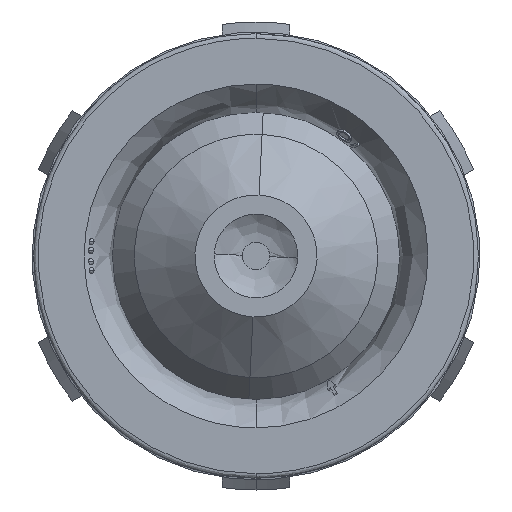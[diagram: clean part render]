
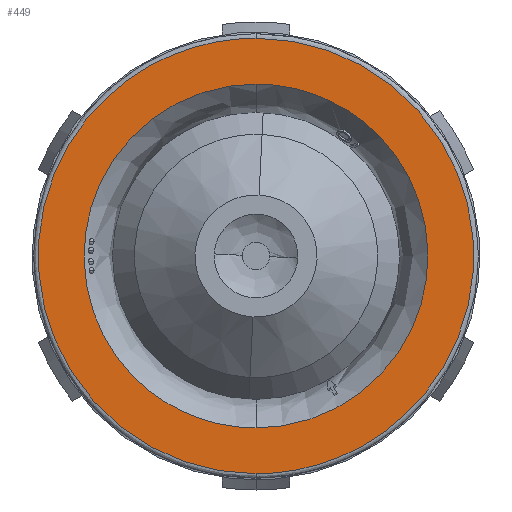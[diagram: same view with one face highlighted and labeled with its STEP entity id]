
A CAD part, left-side view. The second image highlights one B-rep face of the part: STEP entity #449.
In plain terms, the highlighted planar face has unit normal (-1, 0, 0).
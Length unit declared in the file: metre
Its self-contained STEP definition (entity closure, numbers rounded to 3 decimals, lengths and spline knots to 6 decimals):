
#309 = CARTESIAN_POINT ( 'NONE',  ( 0., 0., -0.0076 ) ) ;
#447 = CARTESIAN_POINT ( 'NONE',  ( 0., -0.01925, -0.009625 ) ) ;
#449 = ADVANCED_FACE ( 'NONE', ( #16464, #6978 ), #4927, .F. ) ;
#1492 =( BOUNDED_CURVE ( )  B_SPLINE_CURVE ( 3, ( #1659, #19419, #3433, #21237 ),
 .UNSPECIFIED., .F., .F. ) 
 B_SPLINE_CURVE_WITH_KNOTS ( ( 4, 4 ),
 ( 0., 0.023756 ),
 .UNSPECIFIED. ) 
 CURVE ( )  GEOMETRIC_REPRESENTATION_ITEM ( )  RATIONAL_B_SPLINE_CURVE ( ( 0.974, 0.325, 0.325, 0.974 ) ) 
 REPRESENTATION_ITEM ( '' )  );
#1659 = CARTESIAN_POINT ( 'NONE',  ( 0., 0., 0.0076 ) ) ;
#3218 = ORIENTED_EDGE ( 'NONE', *, *, #20339, .F. ) ;
#3433 = CARTESIAN_POINT ( 'NONE',  ( 0., 0.0152, -0.0076 ) ) ;
#4883 = VERTEX_POINT ( 'NONE', #13441 ) ;
#4927 = PLANE ( 'NONE',  #12959 ) ;
#6541 = CARTESIAN_POINT ( 'NONE',  ( 0., 0., -0.009625 ) ) ;
#6978 = FACE_OUTER_BOUND ( 'NONE', #22426, .T. ) ;
#7121 = DIRECTION ( 'NONE',  ( 0., 0., -1. ) ) ;
#7653 = ORIENTED_EDGE ( 'NONE', *, *, #8972, .F. ) ;
#8119 = VERTEX_POINT ( 'NONE', #9719 ) ;
#8292 = VERTEX_POINT ( 'NONE', #17286 ) ;
#8363 = CARTESIAN_POINT ( 'NONE',  ( 0., 0., 0.009625 ) ) ;
#8972 = EDGE_CURVE ( 'NONE', #8119, #9002, #16549, .T. ) ;
#9002 = VERTEX_POINT ( 'NONE', #13162 ) ;
#9028 = EDGE_CURVE ( 'NONE', #4883, #8292, #15974, .T. ) ;
#9719 = CARTESIAN_POINT ( 'NONE',  ( 0., 0., -0.0076 ) ) ;
#9767 = CARTESIAN_POINT ( 'NONE',  ( 0., -0.0152, 0.0076 ) ) ;
#10257 = CARTESIAN_POINT ( 'NONE',  ( 0., 0., 0.009625 ) ) ;
#10956 =( BOUNDED_CURVE ( )  B_SPLINE_CURVE ( 3, ( #10257, #12044, #447, #21892 ),
 .UNSPECIFIED., .F., .F. ) 
 B_SPLINE_CURVE_WITH_KNOTS ( ( 4, 4 ),
 ( 0., 1. ),
 .UNSPECIFIED. ) 
 CURVE ( )  GEOMETRIC_REPRESENTATION_ITEM ( )  RATIONAL_B_SPLINE_CURVE ( ( 0.957, 0.319, 0.319, 0.957 ) ) 
 REPRESENTATION_ITEM ( '' )  );
#12044 = CARTESIAN_POINT ( 'NONE',  ( 0., -0.01925, 0.009625 ) ) ;
#12856 = CARTESIAN_POINT ( 'NONE',  ( 0., -0.0152, -0.0076 ) ) ;
#12959 = AXIS2_PLACEMENT_3D ( 'NONE', #15455, #17271, #7121 ) ;
#13162 = CARTESIAN_POINT ( 'NONE',  ( 0., 0., 0.0076 ) ) ;
#13441 = CARTESIAN_POINT ( 'NONE',  ( 0., 0., -0.009625 ) ) ;
#13695 = CARTESIAN_POINT ( 'NONE',  ( 0., 0.01925, -0.009625 ) ) ;
#15122 = CARTESIAN_POINT ( 'NONE',  ( 0., 0., 0.0076 ) ) ;
#15438 = CARTESIAN_POINT ( 'NONE',  ( 0., 0.01925, 0.009625 ) ) ;
#15455 = CARTESIAN_POINT ( 'NONE',  ( 0., -0.00974, 0.00974 ) ) ;
#15974 =( BOUNDED_CURVE ( )  B_SPLINE_CURVE ( 3, ( #6541, #13695, #15438, #8363 ),
 .UNSPECIFIED., .F., .F. ) 
 B_SPLINE_CURVE_WITH_KNOTS ( ( 4, 4 ),
 ( 0., 1. ),
 .UNSPECIFIED. ) 
 CURVE ( )  GEOMETRIC_REPRESENTATION_ITEM ( )  RATIONAL_B_SPLINE_CURVE ( ( 0.957, 0.319, 0.319, 0.957 ) ) 
 REPRESENTATION_ITEM ( '' )  );
#16464 = FACE_BOUND ( 'NONE', #21441, .T. ) ;
#16549 =( BOUNDED_CURVE ( )  B_SPLINE_CURVE ( 3, ( #309, #12856, #9767, #15122 ),
 .UNSPECIFIED., .F., .F. ) 
 B_SPLINE_CURVE_WITH_KNOTS ( ( 4, 4 ),
 ( 0., 0.023756 ),
 .UNSPECIFIED. ) 
 CURVE ( )  GEOMETRIC_REPRESENTATION_ITEM ( )  RATIONAL_B_SPLINE_CURVE ( ( 0.974, 0.325, 0.325, 0.974 ) ) 
 REPRESENTATION_ITEM ( '' )  );
#17271 = DIRECTION ( 'NONE',  ( 1., 0., 0. ) ) ;
#17286 = CARTESIAN_POINT ( 'NONE',  ( 0., 0., 0.009625 ) ) ;
#18581 = ORIENTED_EDGE ( 'NONE', *, *, #21745, .F. ) ;
#19419 = CARTESIAN_POINT ( 'NONE',  ( 0., 0.0152, 0.0076 ) ) ;
#20339 = EDGE_CURVE ( 'NONE', #9002, #8119, #1492, .T. ) ;
#21237 = CARTESIAN_POINT ( 'NONE',  ( 0., 0., -0.0076 ) ) ;
#21441 = EDGE_LOOP ( 'NONE', ( #7653, #3218 ) ) ;
#21745 = EDGE_CURVE ( 'NONE', #8292, #4883, #10956, .T. ) ;
#21892 = CARTESIAN_POINT ( 'NONE',  ( 0., 0., -0.009625 ) ) ;
#22118 = ORIENTED_EDGE ( 'NONE', *, *, #9028, .F. ) ;
#22426 = EDGE_LOOP ( 'NONE', ( #18581, #22118 ) ) ;
